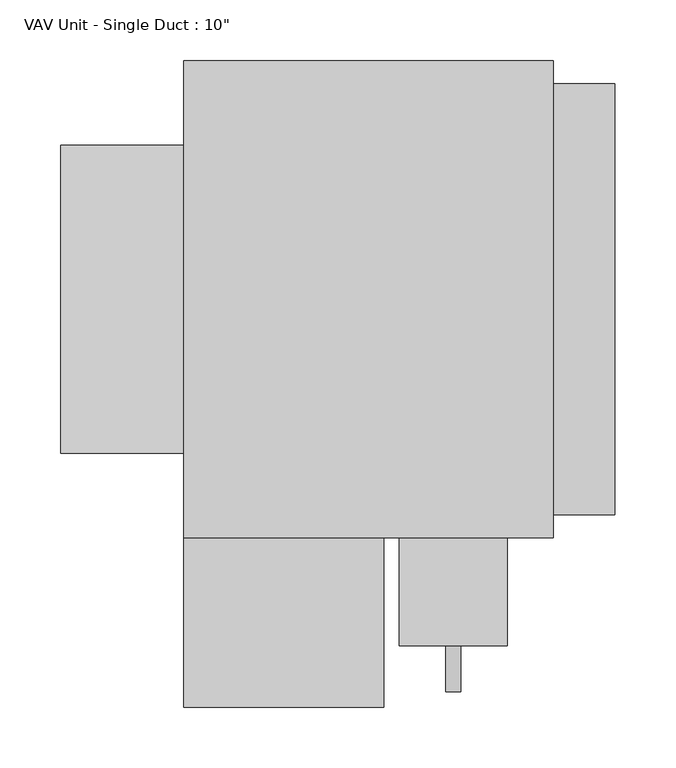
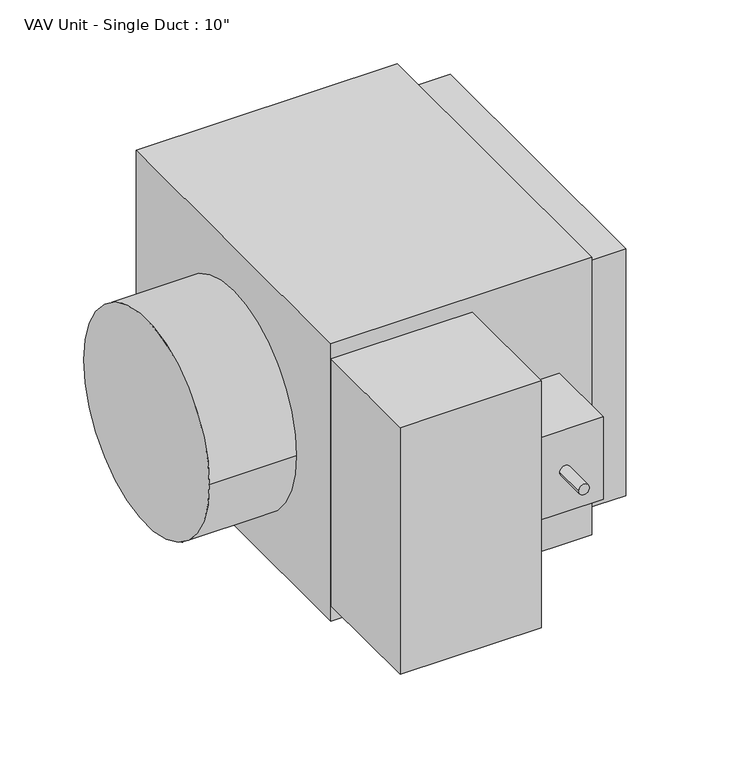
"""IFC4 building model written with IfcOpenShell, lengths in millimetres: proxy geometry."""

from ifc_helpers import new_model, si_unit, frame, origin, origin_with_axes, place, context, project, spatial, polyline, circle_curve, outline, extrude, faceted_brep, source, transform, mapped, element, save
from ifc_brep_helpers import plane_surface, cylinder_surface, advanced_brep


def proxy_022f47ab(model_context):
    return source(origin(), model_context, "Body", "SolidModel", [
        advanced_brep(
        [(266.7, -285.75, 212.725), (177.8, -285.75, 212.725), (177.8, -285.75, 111.125), (266.7, -285.75, 111.125), (228.6, -285.75, 161.925), (215.9, -285.75, 161.925), (266.7, -196.85, 212.725), (266.7, -196.85, 111.125), (177.8, -196.85, 111.125), (177.8, -196.85, 212.725), (215.9, -323.85, 161.925), (228.6, -323.85, 161.925)],
        [
            (0, 1),
            (1, 2),
            (2, 3),
            (3, 0),
            (4, 5, circle_curve(frame((222.25, -285.75, 161.925), z_axis=(0.0, 1.0, 0.0), x_axis=(1.0, 0.0, 0.0)), 6.35)),
            (5, 4, circle_curve(frame((222.25, -285.75, 161.925), z_axis=(0.0, 1.0, 0.0), x_axis=(1.0, 0.0, 0.0)), 6.35)),
            (6, 7),
            (7, 8),
            (8, 9),
            (9, 6),
            (0, 6),
            (9, 1),
            (8, 2),
            (7, 3),
            (10, 11, circle_curve(frame((222.25, -323.85, 161.925), z_axis=(0.0, -1.0, 0.0), x_axis=(1.0, 0.0, 0.0)), 6.35)),
            (11, 10, circle_curve(frame((222.25, -323.85, 161.925), z_axis=(0.0, -1.0, 0.0), x_axis=(1.0, 0.0, 0.0)), 6.35)),
            (10, 5),
            (4, 11),
        ],
        [
            plane_surface(frame((177.8, -285.75, 212.725), z_axis=(0.0, -1.0, 0.0), x_axis=(-1.0, 0.0, 0.0))),
            plane_surface(frame((177.8, -196.85, 212.725), z_axis=(0.0, 1.0, 0.0), x_axis=(1.0, 0.0, 0.0))),
            plane_surface(frame((266.7, -285.75, 212.725), z_axis=(0.0, 0.0, 1.0), x_axis=(0.0, 1.0, 0.0))),
            plane_surface(frame((177.8, -285.75, 212.725), z_axis=(-1.0, 0.0, 0.0), x_axis=(0.0, 1.0, 0.0))),
            plane_surface(frame((177.8, -285.75, 111.125), z_axis=(0.0, 0.0, -1.0), x_axis=(0.0, 1.0, 0.0))),
            plane_surface(frame((266.7, -285.75, 111.125), z_axis=(1.0, 0.0, 0.0), x_axis=(0.0, 1.0, 0.0))),
            plane_surface(frame((228.6, -323.85, 161.925), z_axis=(0.0, -1.0, 0.0), x_axis=(0.0, 0.0, 1.0))),
            cylinder_surface(frame((222.25, -196.85, 161.925), z_axis=(0.0, -1.0, 0.0), x_axis=(1.0, 0.0, 0.0)), 6.35),
        ],
        [
            (0, [[1, 2, 3, 4], [5, 6]]),
            (1, [[7, 8, 9, 10]]),
            (2, [[-1, 11, -10, 12]]),
            (3, [[-2, -12, -9, 13]]),
            (4, [[-3, -13, -8, 14]]),
            (5, [[-4, -14, -7, -11]]),
            (6, [[15, 16]]),
            (7, [[-15, 17, -5, 18]]),
            (7, [[-16, -18, -6, -17]]),
        ],
    ),
        faceted_brep([(355.6, 177.8, 323.85), (355.6, -177.8, 323.85), (355.6, -177.8, 19.05), (355.6, 177.8, 19.05), (304.8, 177.8, 323.85), (304.8, 177.8, 19.05), (304.8, -177.8, 19.05), (304.8, -177.8, 323.85)], [[[0, 1, 2, 3]], [[4, 5, 6, 7]], [[1, 0, 4, 7]], [[2, 1, 7, 6]], [[3, 2, 6, 5]], [[0, 3, 5, 4]]]),
        advanced_brep(
        [(0.0, -127.0, 161.925), (0.0, 127.0, 161.925), (-101.6, -127.0, 161.925), (-101.6, 127.0, 161.925)],
        [
            (0, 1, circle_curve(frame((0.0, 0.0, 161.925), z_axis=(1.0, 0.0, 0.0), x_axis=(0.0, 1.0, 0.0)), 127.0)),
            (1, 0, circle_curve(frame((0.0, 0.0, 161.925), z_axis=(1.0, 0.0, 0.0), x_axis=(0.0, 1.0, 0.0)), 127.0)),
            (2, 3, circle_curve(frame((-101.6, 0.0, 161.925), z_axis=(-1.0, 0.0, 0.0), x_axis=(0.0, 1.0, 0.0)), 127.0)),
            (3, 2, circle_curve(frame((-101.6, 0.0, 161.925), z_axis=(-1.0, 0.0, 0.0), x_axis=(0.0, 1.0, 0.0)), 127.0)),
            (0, 2),
            (3, 1),
        ],
        [
            plane_surface(frame((0.0, 127.0, 161.925), z_axis=(1.0, 0.0, 0.0), x_axis=(0.0, 0.0, 1.0))),
            plane_surface(frame((-101.6, 127.0, 161.925), z_axis=(-1.0, 0.0, 0.0), x_axis=(0.0, 0.0, -1.0))),
            cylinder_surface(frame((-101.6, 0.0, 161.925), z_axis=(1.0, 0.0, 0.0), x_axis=(0.0, 1.0, 0.0)), 127.0),
        ],
        [
            (0, [[1, 2]]),
            (1, [[3, 4]]),
            (2, [[-1, 5, -4, 6]]),
            (2, [[-2, -6, -3, -5]]),
        ],
    ),
        extrude(outline(polyline([(165.1, -336.55), (0.0, -336.55), (0.0, -196.85), (165.1, -196.85), (165.1, -336.55)])), frame((0.0, 0.0, 19.05), z_axis=(0.0, 0.0, 1.0), x_axis=(1.0, 0.0, 0.0)), (0.0, 0.0, 1.0), 304.8),
        extrude(outline(polyline([(304.8, 196.85), (304.8, -196.85), (0.0, -196.85), (0.0, 196.85), (304.8, 196.85)])), origin_with_axes(), (0.0, 0.0, 1.0), 342.9),
    ])


if __name__ == "__main__":
    model = new_model("IFC4")
    model_context = context("Model", 3, world=origin())
    ifc_project = project(units=[si_unit("LENGTHUNIT", "METRE", prefix="MILLI")], contexts=[model_context])
    site = spatial("IfcSite", under=ifc_project)
    building = spatial("IfcBuilding", under=site)
    placement = place(None, origin())
    proxy_shape = proxy_022f47ab(model_context)
    element("IfcBuildingElementProxy", 1, Name="VAV Unit - Single Duct : 10\"", ObjectType="VAV Unit - Single Duct : 10\"", at=placement, inside=building, context=model_context, shape_type="MappedRepresentation", body=[
        mapped(proxy_shape, transform((0.0, 0.0, 0.0), x_axis=(1.0, 0.0, 0.0), y_axis=(0.0, 1.0, 0.0), z_axis=(0.0, 0.0, 1.0))),
    ])
    save(model, "model.ifc")
